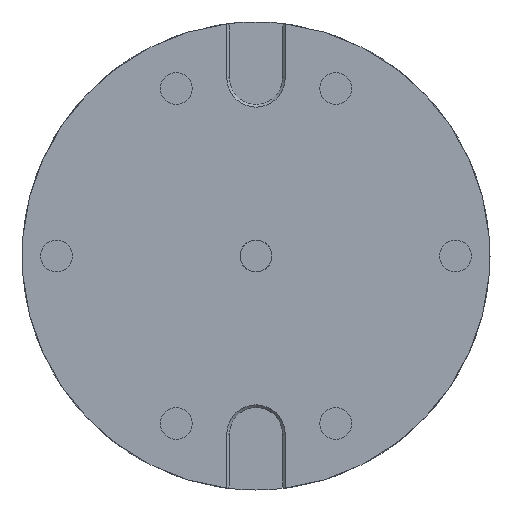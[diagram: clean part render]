
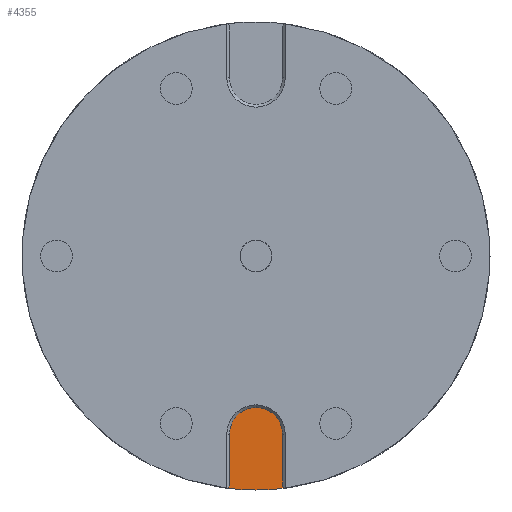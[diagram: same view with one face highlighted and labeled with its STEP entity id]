
A CAD part, front view. The second image highlights one B-rep face of the part: STEP entity #4355.
In plain terms, the highlighted planar face has unit normal (0, -1, 0).
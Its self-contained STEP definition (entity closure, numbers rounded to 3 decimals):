
#100 = ORIENTED_EDGE ( 'NONE', *, *, #4489, .T. ) ;
#236 = DIRECTION ( 'NONE',  ( 0., -1., 0. ) ) ;
#279 = VERTEX_POINT ( 'NONE', #3600 ) ;
#673 = LINE ( 'NONE', #5842, #3937 ) ;
#688 = VERTEX_POINT ( 'NONE', #7042 ) ;
#886 = VECTOR ( 'NONE', #1207, 1000. ) ;
#980 = CARTESIAN_POINT ( 'NONE',  ( 0., 4., -57. ) ) ;
#1207 = DIRECTION ( 'NONE',  ( 0., 0., 1. ) ) ;
#1216 = ORIENTED_EDGE ( 'NONE', *, *, #9234, .T. ) ;
#1524 = DIRECTION ( 'NONE',  ( 0., 0., -1. ) ) ;
#1581 = CIRCLE ( 'NONE', #6485, 10. ) ;
#1624 = LINE ( 'NONE', #2372, #7870 ) ;
#1688 = CARTESIAN_POINT ( 'NONE',  ( 0., 4., 0. ) ) ;
#2068 = AXIS2_PLACEMENT_3D ( 'NONE', #1688, #3305, #4511 ) ;
#2087 = CARTESIAN_POINT ( 'NONE',  ( 0., 4., 0. ) ) ;
#2129 = DIRECTION ( 'NONE',  ( 0., -1., 0. ) ) ;
#2233 = CARTESIAN_POINT ( 'NONE',  ( -10., 4., -87.43 ) ) ;
#2372 = CARTESIAN_POINT ( 'NONE',  ( -38.275, 4., -48.161 ) ) ;
#2585 = FACE_OUTER_BOUND ( 'NONE', #9205, .T. ) ;
#2624 = AXIS2_PLACEMENT_3D ( 'NONE', #2087, #9562, #8913 ) ;
#2872 = CARTESIAN_POINT ( 'NONE',  ( -10., 4., -67. ) ) ;
#3164 = VERTEX_POINT ( 'NONE', #2872 ) ;
#3182 = ORIENTED_EDGE ( 'NONE', *, *, #7279, .T. ) ;
#3219 = DIRECTION ( 'NONE',  ( -0.783, 0., 0.622 ) ) ;
#3254 = ORIENTED_EDGE ( 'NONE', *, *, #7401, .T. ) ;
#3305 = DIRECTION ( 'NONE',  ( 0., -1., 0. ) ) ;
#3592 = PLANE ( 'NONE',  #2624 ) ;
#3600 = CARTESIAN_POINT ( 'NONE',  ( 0., 4., -88. ) ) ;
#3705 = CIRCLE ( 'NONE', #9157, 10. ) ;
#3914 = CARTESIAN_POINT ( 'NONE',  ( 10., 4., -67. ) ) ;
#3937 = VECTOR ( 'NONE', #7311, 1000. ) ;
#3968 = DIRECTION ( 'NONE',  ( 0., -1., 0. ) ) ;
#4355 = ADVANCED_FACE ( 'NONE', ( #2585 ), #3592, .F. ) ;
#4489 = EDGE_CURVE ( 'NONE', #5326, #8778, #1624, .T. ) ;
#4511 = DIRECTION ( 'NONE',  ( 0., 0., -1. ) ) ;
#4533 = VECTOR ( 'NONE', #1524, 1000. ) ;
#4584 = VERTEX_POINT ( 'NONE', #980 ) ;
#4792 = CIRCLE ( 'NONE', #5072, 88. ) ;
#4880 = LINE ( 'NONE', #8708, #886 ) ;
#5072 = AXIS2_PLACEMENT_3D ( 'NONE', #5569, #236, #6922 ) ;
#5326 = VERTEX_POINT ( 'NONE', #7190 ) ;
#5569 = CARTESIAN_POINT ( 'NONE',  ( 0., 4., 0. ) ) ;
#5583 = ORIENTED_EDGE ( 'NONE', *, *, #6913, .T. ) ;
#5715 = CARTESIAN_POINT ( 'NONE',  ( -10., 4., -86.43 ) ) ;
#5723 = EDGE_CURVE ( 'NONE', #688, #279, #4792, .T. ) ;
#5842 = CARTESIAN_POINT ( 'NONE',  ( 38.215, 4., -38.215 ) ) ;
#6485 = AXIS2_PLACEMENT_3D ( 'NONE', #8488, #3968, #6899 ) ;
#6538 = VERTEX_POINT ( 'NONE', #5715 ) ;
#6626 = CARTESIAN_POINT ( 'NONE',  ( 0., 4., -67. ) ) ;
#6899 = DIRECTION ( 'NONE',  ( 0., 0., -1. ) ) ;
#6913 = EDGE_CURVE ( 'NONE', #3164, #6538, #8543, .T. ) ;
#6922 = DIRECTION ( 'NONE',  ( 0., 0., -1. ) ) ;
#6980 = ORIENTED_EDGE ( 'NONE', *, *, #7655, .T. ) ;
#7042 = CARTESIAN_POINT ( 'NONE',  ( -10.893, 4., -87.323 ) ) ;
#7190 = CARTESIAN_POINT ( 'NONE',  ( 10.987, 4., -87.311 ) ) ;
#7279 = EDGE_CURVE ( 'NONE', #6538, #688, #673, .T. ) ;
#7311 = DIRECTION ( 'NONE',  ( -0.707, 0., -0.707 ) ) ;
#7353 = CIRCLE ( 'NONE', #2068, 88. ) ;
#7367 = DIRECTION ( 'NONE',  ( 0., 0., -1. ) ) ;
#7401 = EDGE_CURVE ( 'NONE', #4584, #3164, #3705, .T. ) ;
#7655 = EDGE_CURVE ( 'NONE', #279, #5326, #7353, .T. ) ;
#7687 = VERTEX_POINT ( 'NONE', #3914 ) ;
#7870 = VECTOR ( 'NONE', #3219, 1000. ) ;
#8207 = ORIENTED_EDGE ( 'NONE', *, *, #8557, .T. ) ;
#8488 = CARTESIAN_POINT ( 'NONE',  ( 0., 4., -67. ) ) ;
#8543 = LINE ( 'NONE', #2233, #4533 ) ;
#8557 = EDGE_CURVE ( 'NONE', #8778, #7687, #4880, .T. ) ;
#8708 = CARTESIAN_POINT ( 'NONE',  ( 10., 4., -67. ) ) ;
#8778 = VERTEX_POINT ( 'NONE', #9045 ) ;
#8913 = DIRECTION ( 'NONE',  ( 0., 0., -1. ) ) ;
#9039 = ORIENTED_EDGE ( 'NONE', *, *, #5723, .T. ) ;
#9045 = CARTESIAN_POINT ( 'NONE',  ( 10., 4., -86.527 ) ) ;
#9157 = AXIS2_PLACEMENT_3D ( 'NONE', #6626, #2129, #7367 ) ;
#9205 = EDGE_LOOP ( 'NONE', ( #9039, #6980, #100, #8207, #1216, #3254, #5583, #3182 ) ) ;
#9234 = EDGE_CURVE ( 'NONE', #7687, #4584, #1581, .T. ) ;
#9562 = DIRECTION ( 'NONE',  ( 0., 1., 0. ) ) ;
